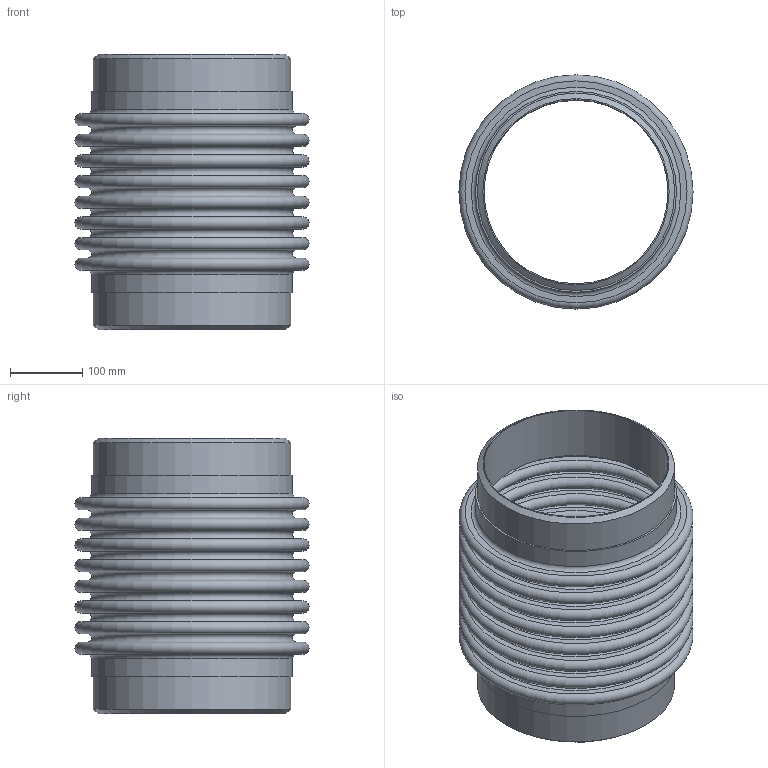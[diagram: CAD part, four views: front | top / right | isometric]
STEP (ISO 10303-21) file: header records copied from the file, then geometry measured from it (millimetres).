
FILE_DESCRIPTION(/* description */ ('EXPANSION JOINT,SINGLE, WELD ENDS,4 INCH NOMINAL'),/* implementation_level */ '2;1');
FILE_NAME(/* name */ 'US-10-300S- WELD-ENDS.stp',/* time_stamp */ '2026-07-28T11:10:06-05:00',/* author */ ('jorgef'),/* organization */ (''),/* preprocessor_version */ 'ST-DEVELOPER v20.1',/* originating_system */ 'Autodesk Inventor 2026',/* authorisation */ '');
FILE_SCHEMA (('AUTOMOTIVE_DESIGN { 1 0 10303 214 3 1 1 }'));
Length unit declared in the file: inch
Products named in the file (3): SINGLE STOCK  BELLOW WELDED ENDS  10- 300 PSIG; STOCK BELLOW - US-10-8-300S; PIPE- 10 - 300 PSIG
Assembly tree (3 placements, depth 2):
  SINGLE STOCK  BELLOW WELDED ENDS  10- 300 PSIG
    STOCK BELLOW - US-10-8-300S
    PIPE- 10 - 300 PSIG  x2
Bounding box: 323.85 x 323.85 x 381 mm (x, y, z)
Volume: 2378189.3 mm3; surface area: 1310744.2 mm2
Topology: 5 solids, 5 shells, 86 faces, 132 edges, 89 vertices
Faces by surface type: plane 42, torus 34, cylinder 8, cone 2
Full cylindrical faces by diameter (mm): 254.508 x2, 273.05 x4, 277.927 x2
Entity records: 2033 total; most frequent: DIRECTION 413, CARTESIAN_POINT 293, ORIENTED_EDGE 246, AXIS2_PLACEMENT_3D 203, EDGE_CURVE 123, EDGE_LOOP 121, CIRCLE 116, VERTEX_POINT 82
